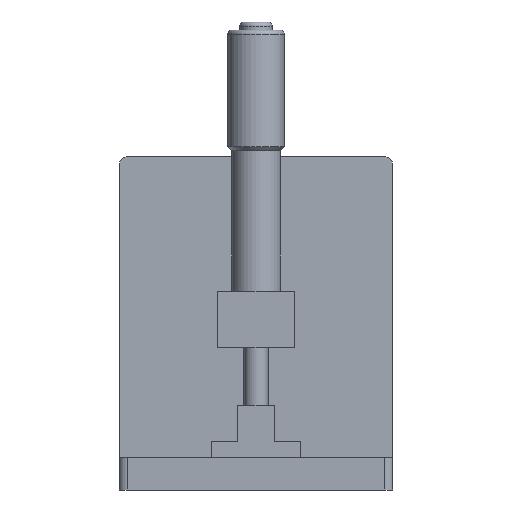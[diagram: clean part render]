
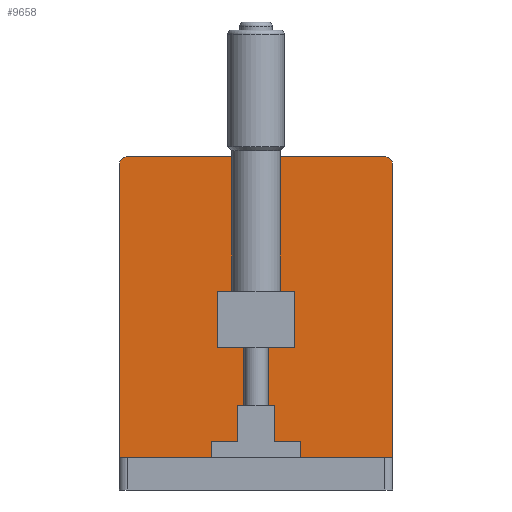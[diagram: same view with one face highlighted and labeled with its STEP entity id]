
A CAD part, front view. The second image highlights one B-rep face of the part: STEP entity #9658.
In plain terms, the highlighted planar face has unit normal (0, -1, 0).
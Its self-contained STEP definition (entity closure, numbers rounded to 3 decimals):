
#90 = CIRCLE ( 'NONE', #11857, 2. ) ;
#342 = EDGE_CURVE ( 'NONE', #747, #9098, #2942, .T. ) ;
#395 = EDGE_CURVE ( 'NONE', #7471, #9098, #12106, .T. ) ;
#460 = CARTESIAN_POINT ( 'NONE',  ( 18.82, -6.5, 4. ) ) ;
#599 = PLANE ( 'NONE',  #5388 ) ;
#747 = VERTEX_POINT ( 'NONE', #4058 ) ;
#816 = VECTOR ( 'NONE', #8036, 1000. ) ;
#1059 = DIRECTION ( 'NONE',  ( -1., 0., 0. ) ) ;
#1354 = ORIENTED_EDGE ( 'NONE', *, *, #10645, .T. ) ;
#1363 = CARTESIAN_POINT ( 'NONE',  ( 62.32, -6.5, 35.5 ) ) ;
#1580 = LINE ( 'NONE', #12549, #5755 ) ;
#1745 = CARTESIAN_POINT ( 'NONE',  ( 62.32, -6.5, 37.5 ) ) ;
#1927 = VECTOR ( 'NONE', #3010, 1000. ) ;
#1935 = ORIENTED_EDGE ( 'NONE', *, *, #7798, .T. ) ;
#2743 = DIRECTION ( 'NONE',  ( 0., 0., 1. ) ) ;
#2942 = LINE ( 'NONE', #11919, #1927 ) ;
#2967 = VERTEX_POINT ( 'NONE', #13208 ) ;
#3007 = LINE ( 'NONE', #1745, #12982 ) ;
#3010 = DIRECTION ( 'NONE',  ( 0., 0., -1. ) ) ;
#3094 = VECTOR ( 'NONE', #6408, 1000. ) ;
#3245 = ORIENTED_EDGE ( 'NONE', *, *, #12402, .F. ) ;
#3384 = DIRECTION ( 'NONE',  ( 1., 0., 0. ) ) ;
#3418 = EDGE_CURVE ( 'NONE', #8674, #2967, #4908, .T. ) ;
#3584 = CARTESIAN_POINT ( 'NONE',  ( 37.82, -6.5, -10. ) ) ;
#3688 = EDGE_CURVE ( 'NONE', #12878, #7471, #3007, .T. ) ;
#4058 = CARTESIAN_POINT ( 'NONE',  ( -5.68, -6.5, 35.5 ) ) ;
#4275 = VECTOR ( 'NONE', #1059, 1000. ) ;
#4422 = ORIENTED_EDGE ( 'NONE', *, *, #5484, .F. ) ;
#4551 = DIRECTION ( 'NONE',  ( -1., 0., 0. ) ) ;
#4607 = EDGE_LOOP ( 'NONE', ( #12277, #1354, #5270, #1935, #8790, #9115 ) ) ;
#4701 = CARTESIAN_POINT ( 'NONE',  ( 37.82, -6.5, 4. ) ) ;
#4732 = CARTESIAN_POINT ( 'NONE',  ( 60.32, -6.5, 37.5 ) ) ;
#4835 = LINE ( 'NONE', #4701, #11518 ) ;
#4870 = VERTEX_POINT ( 'NONE', #11888 ) ;
#4908 = LINE ( 'NONE', #13067, #816 ) ;
#5270 = ORIENTED_EDGE ( 'NONE', *, *, #9464, .T. ) ;
#5388 = AXIS2_PLACEMENT_3D ( 'NONE', #10579, #8552, #4551 ) ;
#5390 = CARTESIAN_POINT ( 'NONE',  ( -3.68, -6.5, 35.5 ) ) ;
#5484 = EDGE_CURVE ( 'NONE', #4870, #8674, #6474, .T. ) ;
#5580 = DIRECTION ( 'NONE',  ( 0., -1., 0. ) ) ;
#5755 = VECTOR ( 'NONE', #3384, 1000. ) ;
#5805 = CARTESIAN_POINT ( 'NONE',  ( 62.32, -6.5, 37.5 ) ) ;
#5969 = CIRCLE ( 'NONE', #8748, 2. ) ;
#6013 = CARTESIAN_POINT ( 'NONE',  ( 62.32, -6.5, -37.5 ) ) ;
#6283 = ORIENTED_EDGE ( 'NONE', *, *, #3418, .F. ) ;
#6408 = DIRECTION ( 'NONE',  ( -1., 0., 0. ) ) ;
#6474 = LINE ( 'NONE', #460, #3094 ) ;
#6661 = CARTESIAN_POINT ( 'NONE',  ( 18.82, -6.5, 4. ) ) ;
#7471 = VERTEX_POINT ( 'NONE', #7878 ) ;
#7798 = EDGE_CURVE ( 'NONE', #8905, #747, #90, .T. ) ;
#7878 = CARTESIAN_POINT ( 'NONE',  ( 62.32, -6.5, -37.5 ) ) ;
#8036 = DIRECTION ( 'NONE',  ( 0., 0., -1. ) ) ;
#8552 = DIRECTION ( 'NONE',  ( 0., 1., 0. ) ) ;
#8585 = DIRECTION ( 'NONE',  ( 0., -1., 0. ) ) ;
#8588 = VERTEX_POINT ( 'NONE', #3584 ) ;
#8657 = DIRECTION ( 'NONE',  ( -1., 0., 0. ) ) ;
#8674 = VERTEX_POINT ( 'NONE', #6661 ) ;
#8686 = DIRECTION ( 'NONE',  ( -1., 0., 0. ) ) ;
#8748 = AXIS2_PLACEMENT_3D ( 'NONE', #10676, #5580, #9657 ) ;
#8751 = LINE ( 'NONE', #5805, #12234 ) ;
#8790 = ORIENTED_EDGE ( 'NONE', *, *, #342, .T. ) ;
#8905 = VERTEX_POINT ( 'NONE', #11539 ) ;
#9023 = DIRECTION ( 'NONE',  ( 0., 0., -1. ) ) ;
#9055 = EDGE_LOOP ( 'NONE', ( #6283, #4422, #3245, #9484 ) ) ;
#9098 = VERTEX_POINT ( 'NONE', #13184 ) ;
#9115 = ORIENTED_EDGE ( 'NONE', *, *, #395, .F. ) ;
#9464 = EDGE_CURVE ( 'NONE', #11759, #8905, #8751, .T. ) ;
#9484 = ORIENTED_EDGE ( 'NONE', *, *, #10688, .F. ) ;
#9563 = FACE_OUTER_BOUND ( 'NONE', #4607, .T. ) ;
#9657 = DIRECTION ( 'NONE',  ( -1., 0., 0. ) ) ;
#9658 = ADVANCED_FACE ( 'NONE', ( #9563, #10777 ), #599, .F. ) ;
#10579 = CARTESIAN_POINT ( 'NONE',  ( 62.32, -6.5, 37.5 ) ) ;
#10645 = EDGE_CURVE ( 'NONE', #12878, #11759, #5969, .T. ) ;
#10676 = CARTESIAN_POINT ( 'NONE',  ( 60.32, -6.5, 35.5 ) ) ;
#10688 = EDGE_CURVE ( 'NONE', #2967, #8588, #1580, .T. ) ;
#10777 = FACE_BOUND ( 'NONE', #9055, .T. ) ;
#11518 = VECTOR ( 'NONE', #2743, 1000. ) ;
#11539 = CARTESIAN_POINT ( 'NONE',  ( -3.68, -6.5, 37.5 ) ) ;
#11759 = VERTEX_POINT ( 'NONE', #4732 ) ;
#11857 = AXIS2_PLACEMENT_3D ( 'NONE', #5390, #8585, #8657 ) ;
#11888 = CARTESIAN_POINT ( 'NONE',  ( 37.82, -6.5, 4. ) ) ;
#11919 = CARTESIAN_POINT ( 'NONE',  ( -5.68, -6.5, 37.5 ) ) ;
#12106 = LINE ( 'NONE', #6013, #4275 ) ;
#12234 = VECTOR ( 'NONE', #8686, 1000. ) ;
#12277 = ORIENTED_EDGE ( 'NONE', *, *, #3688, .F. ) ;
#12402 = EDGE_CURVE ( 'NONE', #8588, #4870, #4835, .T. ) ;
#12549 = CARTESIAN_POINT ( 'NONE',  ( 18.82, -6.5, -10. ) ) ;
#12878 = VERTEX_POINT ( 'NONE', #1363 ) ;
#12982 = VECTOR ( 'NONE', #9023, 1000. ) ;
#13067 = CARTESIAN_POINT ( 'NONE',  ( 18.82, -6.5, 4. ) ) ;
#13184 = CARTESIAN_POINT ( 'NONE',  ( -5.68, -6.5, -37.5 ) ) ;
#13208 = CARTESIAN_POINT ( 'NONE',  ( 18.82, -6.5, -10. ) ) ;
